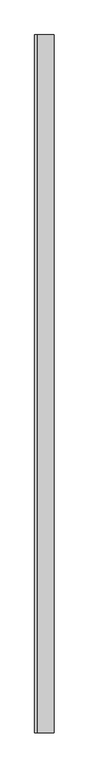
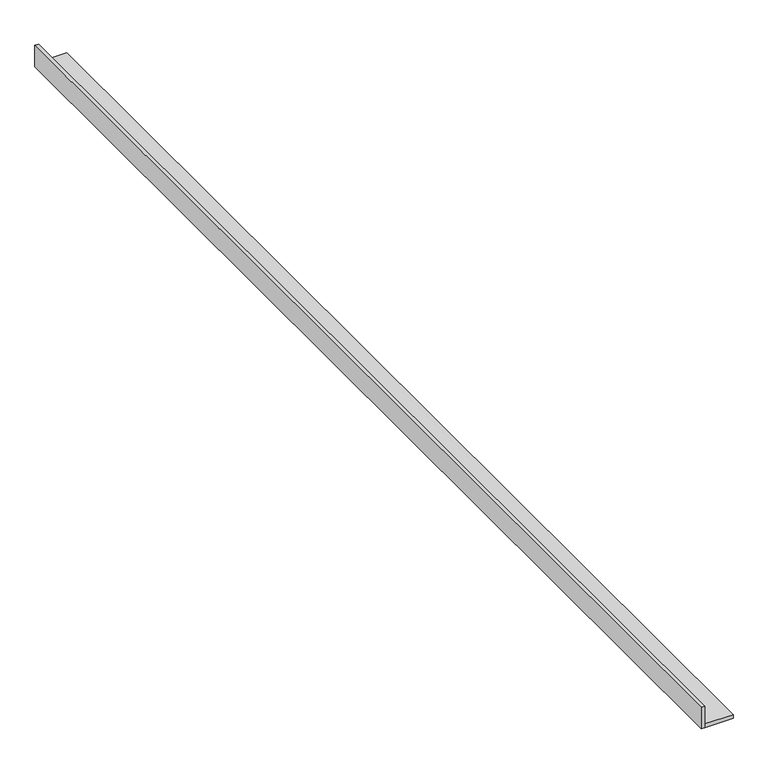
"""IFC4 building model written with IfcOpenShell, lengths in millimetres: proxy geometry, Wall-Panel-Kirei-Pulse_Fins : Pulse_2.125."""

from ifc_helpers import new_model, si_unit, origin, origin_with_axes, place, context, project, spatial, polyline, outline, extrude, source, transform, mapped, element, save


def specialty_equipment_f8b0217f(model_context):
    return source(origin(), model_context, "Body", "SweptSolid", [
        extrude(outline(polyline([(-600.5710938, 1371.6), (-600.5710938, -1371.6), (-609.6, -1371.6), (-609.6, 1371.6), (-600.5710938, 1371.6)])), origin_with_axes(), (0.0, 0.0, 1.0), 53.975),
        extrude(outline(polyline([(-533.5984375, 1371.6), (-533.5984375, -1371.6), (-600.5710937, -1371.6), (-600.5710937, 1371.6), (-533.5984375, 1371.6)])), origin_with_axes(), (0.0, 0.0, 1.0), 9.0289062),
    ])


if __name__ == "__main__":
    model = new_model("IFC4")
    model_context = context("Model", 3, world=origin())
    ifc_project = project(units=[si_unit("LENGTHUNIT", "METRE", prefix="MILLI")], contexts=[model_context])
    site = spatial("IfcSite", under=ifc_project)
    building = spatial("IfcBuilding", under=site)
    placement = place(None, origin())
    specialty_equipment_shape = specialty_equipment_f8b0217f(model_context)
    element("IfcBuildingElementProxy", 1, Name="Wall-Panel-Kirei-Pulse_Fins : Pulse_2.125", ObjectType="Wall-Panel-Kirei-Pulse_Fins : Pulse_2.125", at=placement, inside=building, context=model_context, shape_type="MappedRepresentation", body=[
        mapped(specialty_equipment_shape, transform((0.0, 0.0, 0.0), x_axis=(1.0, 0.0, 0.0), y_axis=(0.0, 1.0, 0.0), z_axis=(0.0, 0.0, 1.0))),
    ])
    save(model, "model.ifc")
